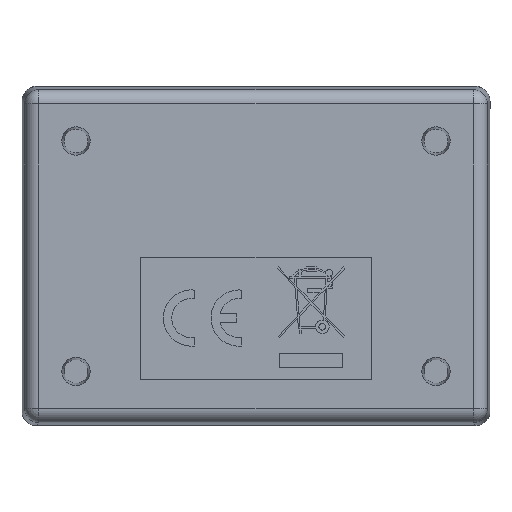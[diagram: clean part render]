
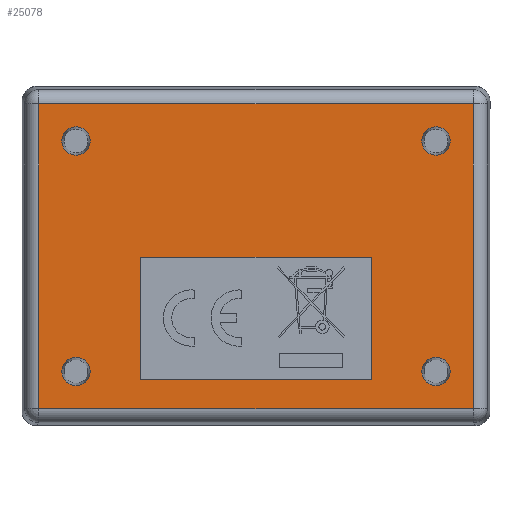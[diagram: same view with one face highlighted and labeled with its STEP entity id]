
A CAD part, front view. The second image highlights one B-rep face of the part: STEP entity #25078.
In plain terms, the highlighted planar face has unit normal (0, -1, 0) as drawn and (0, 0, -1) by its records, which use the part's own axes.
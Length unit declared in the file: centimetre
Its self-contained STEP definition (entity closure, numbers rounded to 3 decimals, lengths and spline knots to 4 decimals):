
#4945=CIRCLE('',#26255,0.1249);
#4946=CIRCLE('',#26256,0.1249);
#4947=CIRCLE('',#26257,0.1249);
#4948=CIRCLE('',#26258,0.1249);
#5698=VERTEX_POINT('',#32784);
#5699=VERTEX_POINT('',#32786);
#5701=VERTEX_POINT('',#32792);
#5703=VERTEX_POINT('',#32798);
#5824=VERTEX_POINT('',#33870);
#5825=VERTEX_POINT('',#33872);
#5826=VERTEX_POINT('',#33874);
#5827=VERTEX_POINT('',#33876);
#5828=VERTEX_POINT('',#33878);
#5829=VERTEX_POINT('',#33879);
#5830=VERTEX_POINT('',#33881);
#5831=VERTEX_POINT('',#33883);
#7978=VECTOR('',#28040,1.);
#7981=VECTOR('',#28044,1.);
#7984=VECTOR('',#28048,1.);
#7987=VECTOR('',#28052,1.);
#8148=VECTOR('',#28285,1.);
#8149=VECTOR('',#28286,1.);
#8150=VECTOR('',#28287,1.);
#8151=VECTOR('',#28288,1.);
#10453=LINE('',#32785,#7978);
#10456=LINE('',#32791,#7981);
#10459=LINE('',#32797,#7984);
#10462=LINE('',#32802,#7987);
#10623=LINE('',#33877,#8148);
#10624=LINE('',#33880,#8149);
#10625=LINE('',#33882,#8150);
#10626=LINE('',#33884,#8151);
#13027=EDGE_CURVE('',#5699,#5698,#10453,.F.);
#13030=EDGE_CURVE('',#5701,#5699,#10456,.F.);
#13033=EDGE_CURVE('',#5703,#5701,#10459,.F.);
#13036=EDGE_CURVE('',#5698,#5703,#10462,.F.);
#13217=EDGE_CURVE('',#5824,#5824,#4945,.F.);
#13218=EDGE_CURVE('',#5825,#5825,#4946,.F.);
#13219=EDGE_CURVE('',#5826,#5826,#4947,.F.);
#13220=EDGE_CURVE('',#5827,#5827,#4948,.F.);
#13221=EDGE_CURVE('',#5828,#5829,#10623,.T.);
#13222=EDGE_CURVE('',#5830,#5828,#10624,.T.);
#13223=EDGE_CURVE('',#5831,#5830,#10625,.T.);
#13224=EDGE_CURVE('',#5829,#5831,#10626,.T.);
#17296=ORIENTED_EDGE('',*,*,#13217,.T.);
#17297=ORIENTED_EDGE('',*,*,#13218,.T.);
#17298=ORIENTED_EDGE('',*,*,#13219,.T.);
#17299=ORIENTED_EDGE('',*,*,#13220,.T.);
#17300=ORIENTED_EDGE('',*,*,#13221,.F.);
#17301=ORIENTED_EDGE('',*,*,#13222,.F.);
#17302=ORIENTED_EDGE('',*,*,#13223,.F.);
#17303=ORIENTED_EDGE('',*,*,#13224,.F.);
#17304=ORIENTED_EDGE('',*,*,#13027,.T.);
#17305=ORIENTED_EDGE('',*,*,#13036,.T.);
#17306=ORIENTED_EDGE('',*,*,#13033,.T.);
#17307=ORIENTED_EDGE('',*,*,#13030,.T.);
#22556=EDGE_LOOP('',(#17296));
#22557=EDGE_LOOP('',(#17297));
#22558=EDGE_LOOP('',(#17298));
#22559=EDGE_LOOP('',(#17299));
#22560=EDGE_LOOP('',(#17300,#17301,#17302,#17303));
#22561=EDGE_LOOP('',(#17304,#17305,#17306,#17307));
#23828=FACE_BOUND('',#22556,.T.);
#23829=FACE_BOUND('',#22557,.T.);
#23830=FACE_BOUND('',#22558,.T.);
#23831=FACE_BOUND('',#22559,.T.);
#23832=FACE_BOUND('',#22560,.T.);
#23833=FACE_BOUND('',#22561,.T.);
#25078=ADVANCED_FACE('',(#23828,#23829,#23830,#23831,#23832,#23833),#41719,
 .F.);
#26254=AXIS2_PLACEMENT_3D('',#33868,#28276,$);
#26255=AXIS2_PLACEMENT_3D('',#33869,#28277,#28278);
#26256=AXIS2_PLACEMENT_3D('',#33871,#28279,#28280);
#26257=AXIS2_PLACEMENT_3D('',#33873,#28281,#28282);
#26258=AXIS2_PLACEMENT_3D('',#33875,#28283,#28284);
#28040=DIRECTION('',(-1.,0.,0.));
#28044=DIRECTION('',(0.,1.,0.));
#28048=DIRECTION('',(1.,0.,0.));
#28052=DIRECTION('',(0.,-1.,0.));
#28276=DIRECTION('',(0.,0.,1.));
#28277=DIRECTION('',(0.,0.,-1.));
#28278=DIRECTION('',(-0.125,0.,0.));
#28279=DIRECTION('',(0.,0.,-1.));
#28280=DIRECTION('',(-0.125,0.,0.));
#28281=DIRECTION('',(0.,0.,-1.));
#28282=DIRECTION('',(-0.125,0.,0.));
#28283=DIRECTION('',(0.,0.,-1.));
#28284=DIRECTION('',(-0.125,0.,0.));
#28285=DIRECTION('',(-1.,0.,0.));
#28286=DIRECTION('',(0.,1.,0.));
#28287=DIRECTION('',(1.,0.,0.));
#28288=DIRECTION('',(0.,-1.,0.));
#32784=CARTESIAN_POINT('',(1.091,-1.0176,-0.0032));
#32785=CARTESIAN_POINT('',(0.1374,-1.0176,-0.0032));
#32786=CARTESIAN_POINT('',(0.0083,-1.0176,-0.0032));
#32791=CARTESIAN_POINT('',(0.0083,0.,-0.0032));
#32792=CARTESIAN_POINT('',(0.0083,1.0176,-0.0032));
#32797=CARTESIAN_POINT('',(0.1374,1.0176,-0.0032));
#32798=CARTESIAN_POINT('',(1.091,1.0176,-0.0032));
#32802=CARTESIAN_POINT('',(1.091,0.,-0.0032));
#33868=CARTESIAN_POINT('',(0.,0.,-0.0032));
#33869=CARTESIAN_POINT('',(1.016,1.5875,-0.0032));
#33870=CARTESIAN_POINT('',(1.1409,1.5875,-0.0032));
#33871=CARTESIAN_POINT('',(1.016,-1.5875,-0.0032));
#33872=CARTESIAN_POINT('',(1.1409,-1.5875,-0.0032));
#33873=CARTESIAN_POINT('',(-1.016,-1.5875,-0.0032));
#33874=CARTESIAN_POINT('',(-0.8911,-1.5875,-0.0032));
#33875=CARTESIAN_POINT('',(-1.016,1.5875,-0.0032));
#33876=CARTESIAN_POINT('',(-0.8911,1.5875,-0.0032));
#33877=CARTESIAN_POINT('',(0.,1.9149,-0.0032));
#33878=CARTESIAN_POINT('',(1.3434,1.9149,-0.0032));
#33879=CARTESIAN_POINT('',(-1.3434,1.9149,-0.0032));
#33880=CARTESIAN_POINT('',(1.3434,0.,-0.0032));
#33881=CARTESIAN_POINT('',(1.3434,-1.9149,-0.0032));
#33882=CARTESIAN_POINT('',(0.,-1.9149,-0.0032));
#33883=CARTESIAN_POINT('',(-1.3434,-1.9149,-0.0032));
#33884=CARTESIAN_POINT('',(-1.3434,0.,-0.0032));
#41719=PLANE('',#26254);
